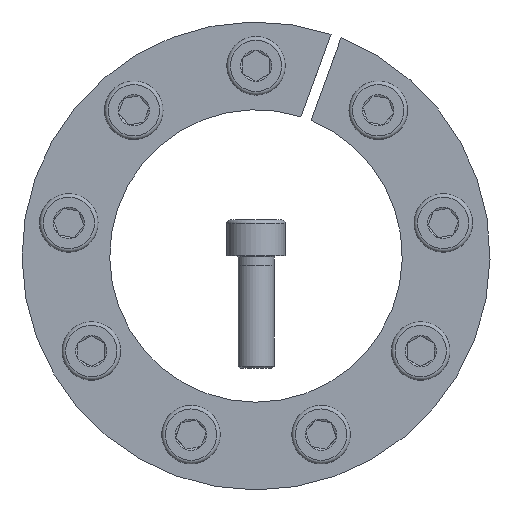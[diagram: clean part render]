
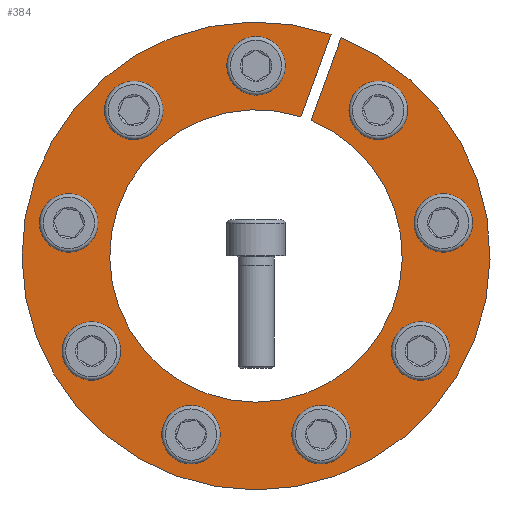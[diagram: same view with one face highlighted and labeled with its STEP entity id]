
A CAD part, front view. The second image highlights one B-rep face of the part: STEP entity #384.
In plain terms, the highlighted planar face has unit normal (0, -1, 0).
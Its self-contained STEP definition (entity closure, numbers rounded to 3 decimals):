
#384 = ADVANCED_FACE( '', ( #596, #597, #598, #599, #600, #601, #602, #603, #604, #605 ), #606, .F. );
#596 = FACE_BOUND( '', #770, .T. );
#597 = FACE_BOUND( '', #771, .T. );
#598 = FACE_BOUND( '', #772, .T. );
#599 = FACE_BOUND( '', #773, .T. );
#600 = FACE_BOUND( '', #774, .T. );
#601 = FACE_BOUND( '', #775, .T. );
#602 = FACE_BOUND( '', #776, .T. );
#603 = FACE_BOUND( '', #777, .T. );
#604 = FACE_BOUND( '', #778, .T. );
#605 = FACE_OUTER_BOUND( '', #779, .T. );
#606 = PLANE( '', #780 );
#770 = EDGE_LOOP( '', ( #983 ) );
#771 = EDGE_LOOP( '', ( #984 ) );
#772 = EDGE_LOOP( '', ( #985 ) );
#773 = EDGE_LOOP( '', ( #986 ) );
#774 = EDGE_LOOP( '', ( #987 ) );
#775 = EDGE_LOOP( '', ( #988 ) );
#776 = EDGE_LOOP( '', ( #989 ) );
#777 = EDGE_LOOP( '', ( #990 ) );
#778 = EDGE_LOOP( '', ( #991 ) );
#779 = EDGE_LOOP( '', ( #992, #993, #994, #995 ) );
#780 = AXIS2_PLACEMENT_3D( '', #996, #997, #998 );
#983 = ORIENTED_EDGE( '', *, *, #1339, .T. );
#984 = ORIENTED_EDGE( '', *, *, #1340, .T. );
#985 = ORIENTED_EDGE( '', *, *, #1341, .T. );
#986 = ORIENTED_EDGE( '', *, *, #1342, .T. );
#987 = ORIENTED_EDGE( '', *, *, #1343, .T. );
#988 = ORIENTED_EDGE( '', *, *, #1344, .T. );
#989 = ORIENTED_EDGE( '', *, *, #1345, .T. );
#990 = ORIENTED_EDGE( '', *, *, #1346, .T. );
#991 = ORIENTED_EDGE( '', *, *, #1347, .T. );
#992 = ORIENTED_EDGE( '', *, *, #1348, .T. );
#993 = ORIENTED_EDGE( '', *, *, #1349, .T. );
#994 = ORIENTED_EDGE( '', *, *, #1331, .T. );
#995 = ORIENTED_EDGE( '', *, *, #1350, .F. );
#996 = CARTESIAN_POINT( '', ( 0., 0., 52. ) );
#997 = DIRECTION( '', ( 0., 1., 0. ) );
#998 = DIRECTION( '', ( 0., 0., 1. ) );
#1331 = EDGE_CURVE( '', #1475, #1473, #1476, .T. );
#1339 = EDGE_CURVE( '', #1489, #1489, #1490, .T. );
#1340 = EDGE_CURVE( '', #1491, #1491, #1492, .T. );
#1341 = EDGE_CURVE( '', #1493, #1493, #1494, .T. );
#1342 = EDGE_CURVE( '', #1495, #1495, #1496, .T. );
#1343 = EDGE_CURVE( '', #1497, #1497, #1498, .T. );
#1344 = EDGE_CURVE( '', #1499, #1499, #1500, .T. );
#1345 = EDGE_CURVE( '', #1501, #1501, #1502, .T. );
#1346 = EDGE_CURVE( '', #1503, #1503, #1504, .T. );
#1347 = EDGE_CURVE( '', #1505, #1505, #1506, .T. );
#1348 = EDGE_CURVE( '', #1507, #1508, #1509, .T. );
#1349 = EDGE_CURVE( '', #1508, #1475, #1510, .T. );
#1350 = EDGE_CURVE( '', #1507, #1473, #1511, .T. );
#1473 = VERTEX_POINT( '', #1597 );
#1475 = VERTEX_POINT( '', #1600 );
#1476 = LINE( '', #1601, #1602 );
#1489 = VERTEX_POINT( '', #1626 );
#1490 = CIRCLE( '', #1627, 4. );
#1491 = VERTEX_POINT( '', #1628 );
#1492 = CIRCLE( '', #1629, 4. );
#1493 = VERTEX_POINT( '', #1630 );
#1494 = CIRCLE( '', #1631, 4. );
#1495 = VERTEX_POINT( '', #1632 );
#1496 = CIRCLE( '', #1633, 4. );
#1497 = VERTEX_POINT( '', #1634 );
#1498 = CIRCLE( '', #1635, 4. );
#1499 = VERTEX_POINT( '', #1636 );
#1500 = CIRCLE( '', #1637, 4. );
#1501 = VERTEX_POINT( '', #1638 );
#1502 = CIRCLE( '', #1639, 4. );
#1503 = VERTEX_POINT( '', #1640 );
#1504 = CIRCLE( '', #1641, 4. );
#1505 = VERTEX_POINT( '', #1642 );
#1506 = CIRCLE( '', #1643, 4. );
#1507 = VERTEX_POINT( '', #1644 );
#1508 = VERTEX_POINT( '', #1645 );
#1509 = LINE( '', #1646, #1647 );
#1510 = CIRCLE( '', #1648, 52. );
#1511 = CIRCLE( '', #1649, 32.5 );
#1597 = CARTESIAN_POINT( '', ( 12.224, 0., 30.113 ) );
#1600 = CARTESIAN_POINT( '', ( 18.896, 0., 48.445 ) );
#1601 = CARTESIAN_POINT( '', ( 18.901, 0., 48.458 ) );
#1602 = VECTOR( '', #1754, 1000. );
#1626 = CARTESIAN_POINT( '', ( -24.094, 0., 34.937 ) );
#1627 = AXIS2_PLACEMENT_3D( '', #1760, #1761, #1762 );
#1628 = CARTESIAN_POINT( '', ( -38.59, 0., -17.661 ) );
#1629 = AXIS2_PLACEMENT_3D( '', #1763, #1764, #1765 );
#1630 = CARTESIAN_POINT( '', ( 10.692, 0., -41.07 ) );
#1631 = AXIS2_PLACEMENT_3D( '', #1766, #1767, #1768 );
#1632 = CARTESIAN_POINT( '', ( 42.303, 0., 3.397 ) );
#1633 = AXIS2_PLACEMENT_3D( '', #1769, #1770, #1771 );
#1634 = CARTESIAN_POINT( '', ( 4., 0., 42.25 ) );
#1635 = AXIS2_PLACEMENT_3D( '', #1772, #1773, #1774 );
#1636 = CARTESIAN_POINT( '', ( 30.222, 0., 29.794 ) );
#1637 = AXIS2_PLACEMENT_3D( '', #1775, #1776, #1777 );
#1638 = CARTESIAN_POINT( '', ( 34.59, 0., -24.589 ) );
#1639 = AXIS2_PLACEMENT_3D( '', #1778, #1779, #1780 );
#1640 = CARTESIAN_POINT( '', ( -18.209, 0., -38.334 ) );
#1641 = AXIS2_PLACEMENT_3D( '', #1781, #1782, #1783 );
#1642 = CARTESIAN_POINT( '', ( -40.914, 0., 11.276 ) );
#1643 = AXIS2_PLACEMENT_3D( '', #1784, #1785, #1786 );
#1644 = CARTESIAN_POINT( '', ( 9.992, 0., 30.926 ) );
#1645 = CARTESIAN_POINT( '', ( 16.665, 0., 49.257 ) );
#1646 = CARTESIAN_POINT( '', ( 9.992, 0., 30.926 ) );
#1647 = VECTOR( '', #1787, 1000. );
#1648 = AXIS2_PLACEMENT_3D( '', #1788, #1789, #1790 );
#1649 = AXIS2_PLACEMENT_3D( '', #1791, #1792, #1793 );
#1754 = DIRECTION( '', ( -0.342, 0., -0.94 ) );
#1760 = CARTESIAN_POINT( '', ( -27.158, 0., 32.365 ) );
#1761 = DIRECTION( '', ( 0., 1., 0. ) );
#1762 = DIRECTION( '', ( 0.766, 0., 0.643 ) );
#1763 = CARTESIAN_POINT( '', ( -36.59, 0., -21.125 ) );
#1764 = DIRECTION( '', ( 0., 1., 0. ) );
#1765 = DIRECTION( '', ( -0.5, 0., 0.866 ) );
#1766 = CARTESIAN_POINT( '', ( 14.45, 0., -39.702 ) );
#1767 = DIRECTION( '', ( 0., 1., 0. ) );
#1768 = DIRECTION( '', ( -0.94, 0., -0.342 ) );
#1769 = CARTESIAN_POINT( '', ( 41.608, 0., 7.337 ) );
#1770 = DIRECTION( '', ( 0., 1., 0. ) );
#1771 = DIRECTION( '', ( 0.174, 0., -0.985 ) );
#1772 = CARTESIAN_POINT( '', ( 0., 0., 42.25 ) );
#1773 = DIRECTION( '', ( 0., 1., 0. ) );
#1774 = DIRECTION( '', ( 1., 0., 0. ) );
#1775 = CARTESIAN_POINT( '', ( 27.158, 0., 32.365 ) );
#1776 = DIRECTION( '', ( 0., 1., 0. ) );
#1777 = DIRECTION( '', ( 0.766, 0., -0.643 ) );
#1778 = CARTESIAN_POINT( '', ( 36.59, 0., -21.125 ) );
#1779 = DIRECTION( '', ( 0., 1., 0. ) );
#1780 = DIRECTION( '', ( -0.5, 0., -0.866 ) );
#1781 = CARTESIAN_POINT( '', ( -14.45, 0., -39.702 ) );
#1782 = DIRECTION( '', ( 0., 1., 0. ) );
#1783 = DIRECTION( '', ( -0.94, 0., 0.342 ) );
#1784 = CARTESIAN_POINT( '', ( -41.608, 0., 7.337 ) );
#1785 = DIRECTION( '', ( 0., 1., 0. ) );
#1786 = DIRECTION( '', ( 0.174, 0., 0.985 ) );
#1787 = DIRECTION( '', ( 0.342, 0., 0.94 ) );
#1788 = CARTESIAN_POINT( '', ( 0., 0., 0. ) );
#1789 = DIRECTION( '', ( 0., -1., 0. ) );
#1790 = DIRECTION( '', ( 0., 0., -1. ) );
#1791 = CARTESIAN_POINT( '', ( 0., 0., 0. ) );
#1792 = DIRECTION( '', ( 0., -1., 0. ) );
#1793 = DIRECTION( '', ( 0., 0., -1. ) );
